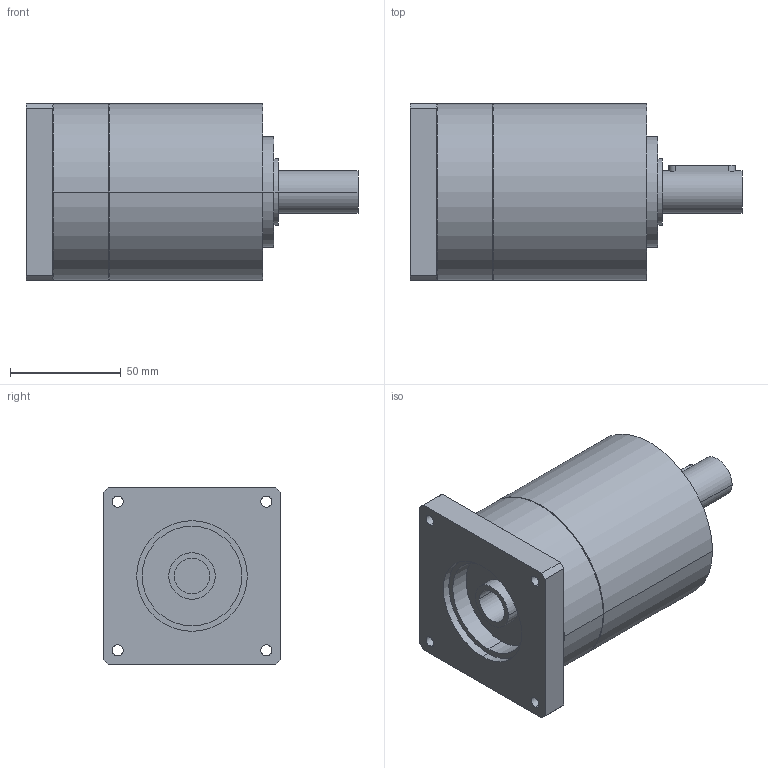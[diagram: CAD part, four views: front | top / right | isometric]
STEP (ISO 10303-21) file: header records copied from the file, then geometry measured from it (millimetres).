
FILE_DESCRIPTION(('CoCreate Modeling STEP Export'),'2;1');
FILE_NAME('GPR100_ig-3-4-5-6_19_B14_16_P21.stp','2014-08-26T10:08:20',(''),(''),'CoCreate Modeling STEP processor for AP214 (Solid Model)','CoCreate Modeling 16.00C 25-Feb-2009 (C) Parametric Technology GmbH','');
FILE_SCHEMA(('AUTOMOTIVE_DESIGN { 1 0 10303 214 1 1 1 1 }'));
Length unit declared in the file: millimetre
Products named in the file (2): GPR100_ig-3-4-5-6_19_B14_16_P21
Assembly tree (1 placements, depth 2):
  GPR100_ig-3-4-5-6_19_B14_16_P21
    GPR100_ig-3-4-5-6_19_B14_16_P21
Bounding box: 150 x 80 x 80 mm (x, y, z)
Volume: 547423.6 mm3; surface area: 50075 mm2
Topology: 1 solids, 1 shells, 70 faces, 186 edges, 130 vertices
Faces by surface type: cylinder 42, plane 22, cone 6
Entity records: 1929 total; most frequent: ORIENTED_EDGE 368, CARTESIAN_POINT 358, DIRECTION 262, EDGE_CURVE 184, VERTEX_POINT 130, AXIS2_PLACEMENT_3D 98, EDGE_LOOP 92, FACE_OUTER_BOUND 70
